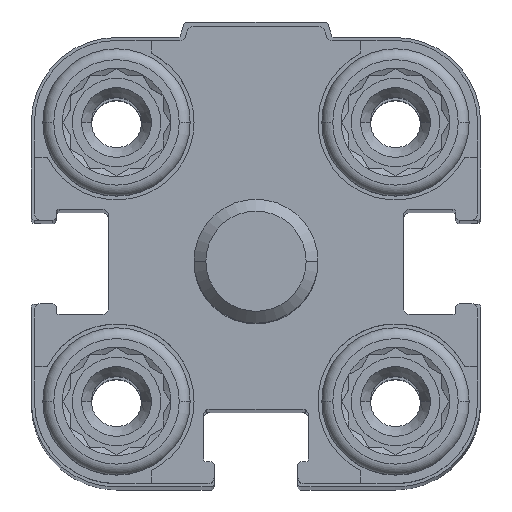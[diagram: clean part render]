
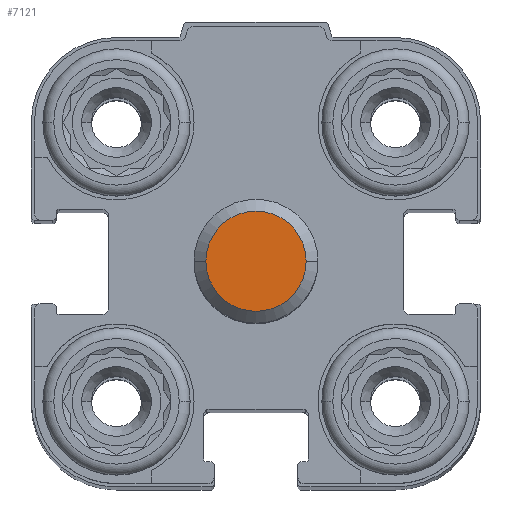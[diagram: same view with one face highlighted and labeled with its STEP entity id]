
A CAD part, top view. The second image highlights one B-rep face of the part: STEP entity #7121.
In plain terms, the highlighted planar face has unit normal (0, 0, 1).
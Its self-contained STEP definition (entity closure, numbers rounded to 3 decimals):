
#526 = VERTEX_POINT ( 'NONE', #5160 ) ;
#713 = AXIS2_PLACEMENT_3D ( 'NONE', #11958, #7661, #17453 ) ;
#1025 = FACE_OUTER_BOUND ( 'NONE', #11111, .T. ) ;
#1353 = EDGE_CURVE ( 'NONE', #526, #12466, #16481, .T. ) ;
#3529 = CARTESIAN_POINT ( 'NONE',  ( 3.233, 0., 24.5 ) ) ;
#3973 = ORIENTED_EDGE ( 'NONE', *, *, #10567, .F. ) ;
#3988 = ORIENTED_EDGE ( 'NONE', *, *, #1353, .F. ) ;
#4743 = DIRECTION ( 'NONE',  ( 0., 0., -1. ) ) ;
#5160 = CARTESIAN_POINT ( 'NONE',  ( -3.233, 0., 24.5 ) ) ;
#5618 = AXIS2_PLACEMENT_3D ( 'NONE', #6024, #4743, #11469 ) ;
#6024 = CARTESIAN_POINT ( 'NONE',  ( 0., 0., 24.5 ) ) ;
#6491 = PLANE ( 'NONE',  #713 ) ;
#7121 = ADVANCED_FACE ( 'NONE', ( #1025 ), #6491, .F. ) ;
#7661 = DIRECTION ( 'NONE',  ( 0., 0., -1. ) ) ;
#9227 = DIRECTION ( 'NONE',  ( -1., 0., 0. ) ) ;
#10567 = EDGE_CURVE ( 'NONE', #12466, #526, #16797, .T. ) ;
#11022 = AXIS2_PLACEMENT_3D ( 'NONE', #17576, #11734, #9227 ) ;
#11111 = EDGE_LOOP ( 'NONE', ( #3988, #3973 ) ) ;
#11469 = DIRECTION ( 'NONE',  ( -1., 0., 0. ) ) ;
#11734 = DIRECTION ( 'NONE',  ( 0., 0., -1. ) ) ;
#11958 = CARTESIAN_POINT ( 'NONE',  ( 0., 0., 24.5 ) ) ;
#12466 = VERTEX_POINT ( 'NONE', #3529 ) ;
#16481 = CIRCLE ( 'NONE', #11022, 3.233 ) ;
#16797 = CIRCLE ( 'NONE', #5618, 3.233 ) ;
#17453 = DIRECTION ( 'NONE',  ( 0., 1., 0. ) ) ;
#17576 = CARTESIAN_POINT ( 'NONE',  ( 0., 0., 24.5 ) ) ;
